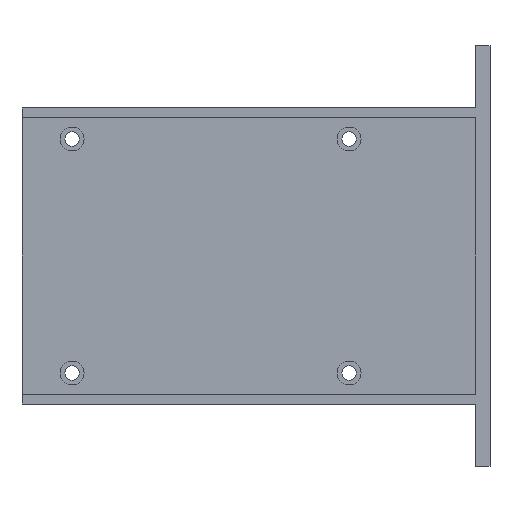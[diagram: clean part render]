
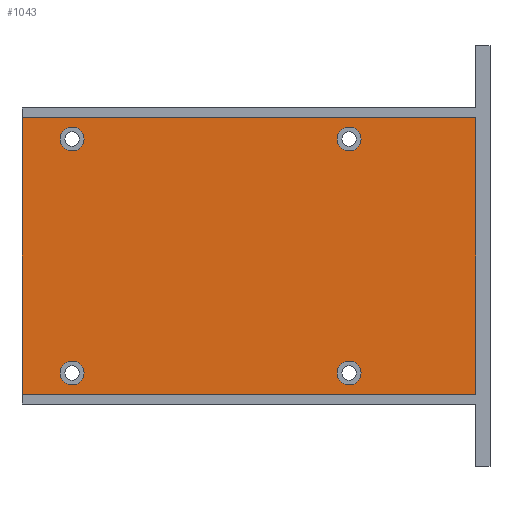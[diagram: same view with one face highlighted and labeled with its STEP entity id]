
A CAD part, left-side view. The second image highlights one B-rep face of the part: STEP entity #1043.
In plain terms, the highlighted planar face has unit normal (-1, 0, 0).
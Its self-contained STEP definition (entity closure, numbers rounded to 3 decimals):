
#607 = VERTEX_POINT('',#608);
#608 = CARTESIAN_POINT('',(244.85,92.,-73.));
#614 = EDGE_CURVE('',#607,#615,#617,.T.);
#615 = VERTEX_POINT('',#616);
#616 = CARTESIAN_POINT('',(244.85,92.,-15.));
#617 = LINE('',#618,#619);
#618 = CARTESIAN_POINT('',(244.85,92.,-75.));
#619 = VECTOR('',#620,1.);
#620 = DIRECTION('',(0.,0.,1.));
#640 = VERTEX_POINT('',#641);
#641 = CARTESIAN_POINT('',(244.85,-3.,-15.));
#647 = EDGE_CURVE('',#615,#640,#648,.T.);
#648 = LINE('',#649,#650);
#649 = CARTESIAN_POINT('',(244.85,92.,-15.));
#650 = VECTOR('',#651,1.);
#651 = DIRECTION('',(0.,-1.,0.));
#663 = EDGE_CURVE('',#664,#640,#666,.T.);
#664 = VERTEX_POINT('',#665);
#665 = CARTESIAN_POINT('',(244.85,-3.,-73.));
#666 = LINE('',#667,#668);
#667 = CARTESIAN_POINT('',(244.85,-3.,-75.));
#668 = VECTOR('',#669,1.);
#669 = DIRECTION('',(0.,0.,1.));
#688 = EDGE_CURVE('',#664,#607,#689,.T.);
#689 = LINE('',#690,#691);
#690 = CARTESIAN_POINT('',(244.85,-3.,-73.));
#691 = VECTOR('',#692,1.);
#692 = DIRECTION('',(0.,1.,0.));
#1043 = ADVANCED_FACE('',(#1044,#1050,#1061,#1072,#1083),#1094,.F.);
#1044 = FACE_BOUND('',#1045,.F.);
#1045 = EDGE_LOOP('',(#1046,#1047,#1048,#1049));
#1046 = ORIENTED_EDGE('',*,*,#663,.F.);
#1047 = ORIENTED_EDGE('',*,*,#688,.T.);
#1048 = ORIENTED_EDGE('',*,*,#614,.T.);
#1049 = ORIENTED_EDGE('',*,*,#647,.T.);
#1050 = FACE_BOUND('',#1051,.F.);
#1051 = EDGE_LOOP('',(#1052));
#1052 = ORIENTED_EDGE('',*,*,#1053,.T.);
#1053 = EDGE_CURVE('',#1054,#1054,#1056,.T.);
#1054 = VERTEX_POINT('',#1055);
#1055 = CARTESIAN_POINT('',(244.85,79.,-68.5));
#1056 = CIRCLE('',#1057,2.5);
#1057 = AXIS2_PLACEMENT_3D('',#1058,#1059,#1060);
#1058 = CARTESIAN_POINT('',(244.85,81.5,-68.5));
#1059 = DIRECTION('',(-1.,0.,0.));
#1060 = DIRECTION('',(0.,-1.,0.));
#1061 = FACE_BOUND('',#1062,.F.);
#1062 = EDGE_LOOP('',(#1063));
#1063 = ORIENTED_EDGE('',*,*,#1064,.T.);
#1064 = EDGE_CURVE('',#1065,#1065,#1067,.T.);
#1065 = VERTEX_POINT('',#1066);
#1066 = CARTESIAN_POINT('',(244.85,79.,-19.5));
#1067 = CIRCLE('',#1068,2.5);
#1068 = AXIS2_PLACEMENT_3D('',#1069,#1070,#1071);
#1069 = CARTESIAN_POINT('',(244.85,81.5,-19.5));
#1070 = DIRECTION('',(-1.,0.,0.));
#1071 = DIRECTION('',(0.,-1.,0.));
#1072 = FACE_BOUND('',#1073,.F.);
#1073 = EDGE_LOOP('',(#1074));
#1074 = ORIENTED_EDGE('',*,*,#1075,.T.);
#1075 = EDGE_CURVE('',#1076,#1076,#1078,.T.);
#1076 = VERTEX_POINT('',#1077);
#1077 = CARTESIAN_POINT('',(244.85,21.,-68.5));
#1078 = CIRCLE('',#1079,2.5);
#1079 = AXIS2_PLACEMENT_3D('',#1080,#1081,#1082);
#1080 = CARTESIAN_POINT('',(244.85,23.5,-68.5));
#1081 = DIRECTION('',(-1.,0.,0.));
#1082 = DIRECTION('',(0.,-1.,0.));
#1083 = FACE_BOUND('',#1084,.F.);
#1084 = EDGE_LOOP('',(#1085));
#1085 = ORIENTED_EDGE('',*,*,#1086,.T.);
#1086 = EDGE_CURVE('',#1087,#1087,#1089,.T.);
#1087 = VERTEX_POINT('',#1088);
#1088 = CARTESIAN_POINT('',(244.85,21.,-19.5));
#1089 = CIRCLE('',#1090,2.5);
#1090 = AXIS2_PLACEMENT_3D('',#1091,#1092,#1093);
#1091 = CARTESIAN_POINT('',(244.85,23.5,-19.5));
#1092 = DIRECTION('',(-1.,0.,0.));
#1093 = DIRECTION('',(0.,-1.,0.));
#1094 = PLANE('',#1095);
#1095 = AXIS2_PLACEMENT_3D('',#1096,#1097,#1098);
#1096 = CARTESIAN_POINT('',(244.85,-3.,-75.));
#1097 = DIRECTION('',(1.,0.,0.));
#1098 = DIRECTION('',(0.,0.,1.));
